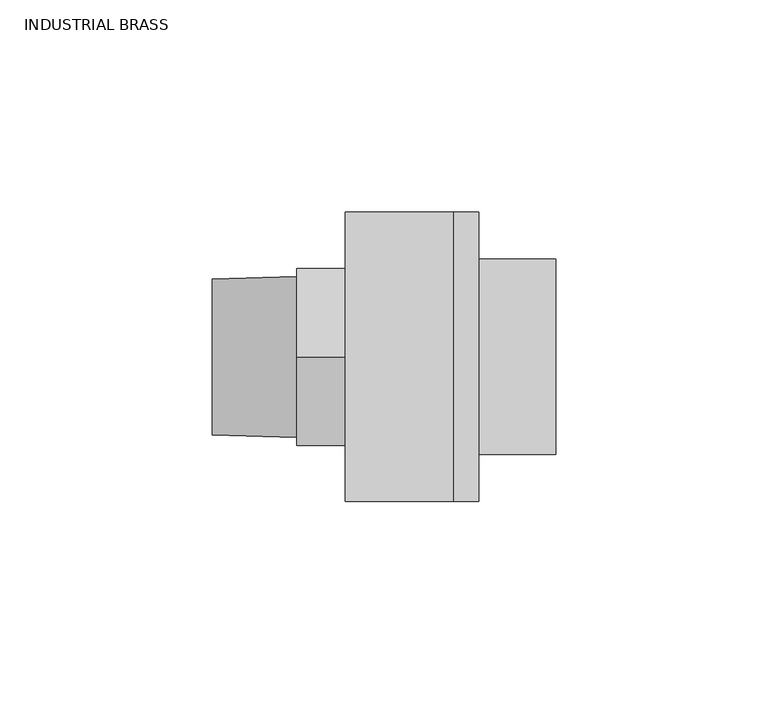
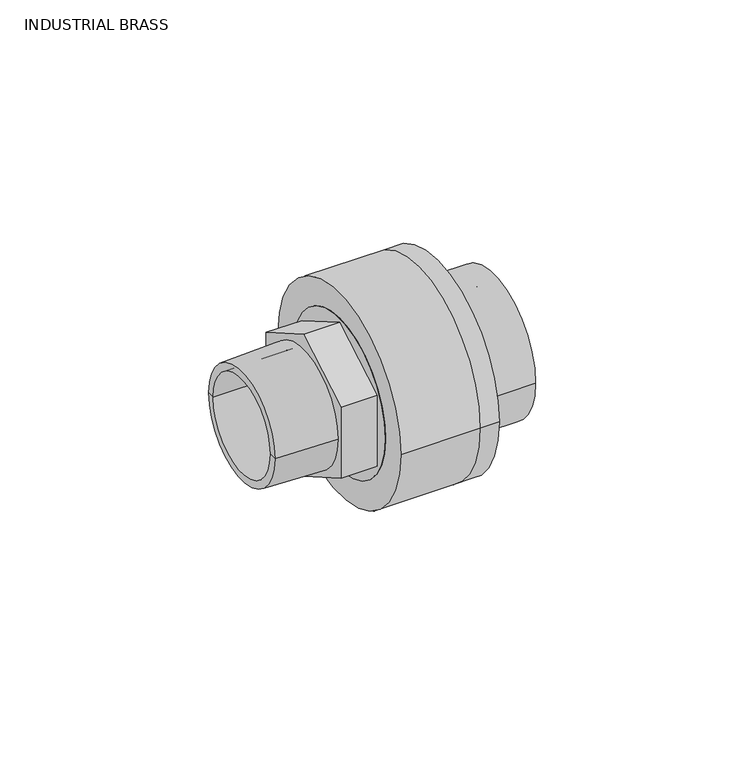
"""IFC4 building model written with IfcOpenShell, lengths in millimetres: valve geometry, Aquatherm - Transition Piece - M HEX : INDUSTRIAL BRASS."""

from ifc_helpers import new_model, si_unit, frame, origin, place, context, project, spatial, polyline, circle_curve, source, transform, mapped, element, save
from ifc_brep_helpers import plane_surface, cylinder_surface, revolved_surface, advanced_brep


def industrial_brass_cb4e01c0(model_context):
    return source(origin(), model_context, "Body", "AdvancedBrep", [
        advanced_brep(
        [(25.4, -25.4, 0.0), (25.4, 25.4, 0.0), (25.4, -15.875, 0.0), (25.4, 15.875, 0.0), (0.0, -25.4, 0.0), (0.0, 25.4, 0.0), (0.0, 0.0, -24.0501028), (0.0, 20.828, -12.0250514), (0.0, 20.828, 12.0250514), (0.0, 0.0, 24.0501028), (0.0, -20.828, 12.0250514), (0.0, -20.828, -12.0250514), (0.0, -15.875, 0.0), (0.0, 15.875, 0.0), (-11.43, 0.0, -24.0501028), (-11.43, -20.828, -12.0250514), (-11.43, -20.828, 12.0250514), (-11.43, 0.0, 24.0501028), (-11.43, 20.828, 12.0250514), (-11.43, 20.828, -12.0250514), (-11.43, -18.9526355, 0.0), (-11.43, 18.9526355, 0.0), (-11.43, -15.875, 0.0), (-11.43, 15.875, 0.0), (-31.242, 15.875, 0.0), (-31.242, -15.875, 0.0), (-31.242, 18.3536145, 0.0), (-31.242, -18.3536145, 0.0)],
        [
            (0, 1, circle_curve(frame((25.4, 0.0, 0.0), z_axis=(1.0, 0.0, 0.0), x_axis=(0.0, 1.0, 0.0)), 25.4)),
            (1, 0, circle_curve(frame((25.4, 0.0, 0.0), z_axis=(1.0, 0.0, 0.0), x_axis=(0.0, 1.0, 0.0)), 25.4)),
            (2, 3, circle_curve(frame((25.4, 0.0, 0.0), z_axis=(-1.0, 0.0, 0.0), x_axis=(0.0, 1.0, 0.0)), 15.875)),
            (3, 2, circle_curve(frame((25.4, 0.0, 0.0), z_axis=(-1.0, 0.0, 0.0), x_axis=(0.0, 1.0, 0.0)), 15.875)),
            (4, 5, circle_curve(frame((0.0, 0.0, 0.0), z_axis=(-1.0, 0.0, 0.0), x_axis=(0.0, 1.0, 0.0)), 25.4)),
            (5, 4, circle_curve(frame((0.0, 0.0, 0.0), z_axis=(-1.0, 0.0, 0.0), x_axis=(0.0, 1.0, 0.0)), 25.4)),
            (6, 7),
            (7, 8),
            (8, 9),
            (9, 10),
            (10, 11),
            (11, 6),
            (0, 4),
            (5, 1),
            (2, 12),
            (12, 13, circle_curve(frame((0.0, 0.0, 0.0), z_axis=(-1.0, 0.0, 0.0), x_axis=(0.0, 1.0, 0.0)), 15.875)),
            (13, 3),
            (13, 12, circle_curve(frame((0.0, 0.0, 0.0), z_axis=(-1.0, 0.0, 0.0), x_axis=(0.0, 1.0, 0.0)), 15.875)),
            (14, 15),
            (15, 16),
            (16, 17),
            (17, 18),
            (18, 19),
            (19, 14),
            (20, 21, circle_curve(frame((-11.43, 0.0, 0.0), z_axis=(1.0, 0.0, 0.0), x_axis=(0.0, 1.0, 0.0)), 18.9526355)),
            (21, 20, circle_curve(frame((-11.43, 0.0, 0.0), z_axis=(1.0, 0.0, 0.0), x_axis=(0.0, 1.0, 0.0)), 18.9526355)),
            (19, 7),
            (6, 14),
            (18, 8),
            (17, 9),
            (16, 10),
            (15, 11),
            (12, 22),
            (22, 23, circle_curve(frame((-11.43, 0.0, 0.0), z_axis=(-1.0, 0.0, 0.0), x_axis=(0.0, 1.0, 0.0)), 15.875)),
            (23, 13),
            (23, 22, circle_curve(frame((-11.43, 0.0, 0.0), z_axis=(-1.0, 0.0, 0.0), x_axis=(0.0, 1.0, 0.0)), 15.875)),
            (23, 24),
            (24, 25, circle_curve(frame((-31.242, 0.0, 0.0), z_axis=(-1.0, 0.0, 0.0), x_axis=(0.0, 1.0, 0.0)), 15.875)),
            (25, 22),
            (25, 24, circle_curve(frame((-31.242, 0.0, 0.0), z_axis=(-1.0, 0.0, 0.0), x_axis=(0.0, 1.0, 0.0)), 15.875)),
            (24, 26),
            (26, 27, circle_curve(frame((-31.242, 0.0, 0.0), z_axis=(-1.0, 0.0, 0.0), x_axis=(0.0, 1.0, 0.0)), 18.3536145)),
            (27, 25),
            (27, 26, circle_curve(frame((-31.242, 0.0, 0.0), z_axis=(-1.0, 0.0, 0.0), x_axis=(0.0, 1.0, 0.0)), 18.3536145)),
            (26, 21),
            (20, 27),
        ],
        [
            plane_surface(frame((25.4, 25.4, 0.0), z_axis=(1.0, 0.0, 0.0), x_axis=(0.0, 0.0, 1.0))),
            plane_surface(frame((0.0, 25.4, 0.0), z_axis=(-1.0, 0.0, 0.0), x_axis=(0.0, 0.0, -1.0))),
            cylinder_surface(frame((0.0, 0.0, 0.0), z_axis=(1.0, 0.0, 0.0), x_axis=(0.0, 1.0, 0.0)), 25.4),
            revolved_surface(polyline([(0.0, 15.875, 0.0), (25.4, 15.875, 0.0)]), (17.447219, 0.0, 0.0), (-1.0, 0.0, 0.0)),
            plane_surface(frame((-11.43, 0.0, -24.0501028), z_axis=(-1.0, 0.0, 0.0), x_axis=(0.0, -0.8660254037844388, -0.49999999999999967))),
            plane_surface(frame((0.0, 0.0, -24.0501028), z_axis=(0.0, 0.49999999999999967, -0.8660254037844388), x_axis=(-1.0, 0.0, 0.0))),
            plane_surface(frame((0.0, 20.828, -12.0250514), z_axis=(0.0, 1.0, 0.0), x_axis=(-1.0, 0.0, 0.0))),
            plane_surface(frame((0.0, 20.828, 12.0250514), z_axis=(0.0, 0.49999999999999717, 0.8660254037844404), x_axis=(-1.0, 0.0, 0.0))),
            plane_surface(frame((0.0, 0.0, 24.0501028), z_axis=(0.0, -0.5000000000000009, 0.8660254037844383), x_axis=(-1.0, 0.0, 0.0))),
            plane_surface(frame((0.0, -20.828, 12.0250514), z_axis=(0.0, -1.0, 0.0), x_axis=(-1.0, 0.0, 0.0))),
            plane_surface(frame((0.0, -20.828, -12.0250514), z_axis=(0.0, -0.49999999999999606, -0.8660254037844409), x_axis=(-1.0, 0.0, 0.0))),
            revolved_surface(polyline([(-11.43, 15.875, 0.0), (0.0, 15.875, 0.0)]), (0.0, 0.0, 0.0), (-1.0, 0.0, 0.0)),
            revolved_surface(polyline([(-31.242000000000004, 15.875, 0.0), (-11.43, 15.875, 0.0)]), (-66.1150688, 0.0, 0.0), (-1.0, 0.0, 0.0)),
            plane_surface(frame((-31.242, 0.0, 0.0), z_axis=(-1.0, 0.0, 0.0), x_axis=(0.0, 1.0, 0.0))),
            revolved_surface(polyline([(-11.43, 18.9526355, 0.0), (-31.242, 18.3536145, 0.0)]), (-66.1150688, 0.0, 0.0), (-1.0, 0.0, 0.0)),
        ],
        [
            (0, [[1, 2], [3, 4]]),
            (1, [[5, 6], [7, 8, 9, 10, 11, 12]]),
            (2, [[-1, 13, -6, 14]]),
            (2, [[-2, -14, -5, -13]]),
            (3, [[-3, 15, 16, 17]]),
            (3, [[-4, -17, 18, -15]]),
            (4, [[19, 20, 21, 22, 23, 24], [25, 26]]),
            (5, [[-24, 27, -7, 28]]),
            (6, [[-23, 29, -8, -27]]),
            (7, [[-22, 30, -9, -29]]),
            (8, [[-21, 31, -10, -30]]),
            (9, [[-20, 32, -11, -31]]),
            (10, [[-19, -28, -12, -32]]),
            (11, [[33, 34, 35, -16]]),
            (11, [[-33, -18, -35, 36]]),
            (12, [[37, 38, 39, -36]]),
            (12, [[-37, -34, -39, 40]]),
            (13, [[-38, 41, 42, 43]]),
            (13, [[-40, -43, 44, -41]]),
            (14, [[-42, 45, -25, 46]]),
            (14, [[-44, -46, -26, -45]]),
        ],
    ),
        advanced_brep(
        [(0.0, -34.036, 0.0), (0.0, 34.036, 0.0), (0.0, -25.4, 0.0), (0.0, 25.4, 0.0), (25.4, 34.036, 0.0), (25.4, -34.036, 0.0), (25.4, 25.4, 0.0), (25.4, -25.4, 0.0), (31.496, -34.036, 0.0), (31.496, 34.036, 0.0), (31.496, 22.987, 0.0), (31.496, -22.987, 0.0), (31.496, 16.002, 0.0), (31.496, -16.002, 0.0), (31.496, -12.7, 0.0), (31.496, 12.7, 0.0), (25.4, -12.7, 0.0), (25.4, 12.7, 0.0), (49.53, -22.987, 0.0), (49.53, 22.987, 0.0), (49.53, -16.002, 0.0), (49.53, 16.002, 0.0)],
        [
            (0, 1, circle_curve(frame((0.0, 0.0, 0.0), z_axis=(-1.0, 0.0, 0.0), x_axis=(0.0, 1.0, 0.0)), 34.036)),
            (1, 0, circle_curve(frame((0.0, 0.0, 0.0), z_axis=(-1.0, 0.0, 0.0), x_axis=(0.0, 1.0, 0.0)), 34.036)),
            (2, 3, circle_curve(frame((0.0, 0.0, 0.0), z_axis=(1.0, 0.0, 0.0), x_axis=(0.0, 1.0, 0.0)), 25.4)),
            (3, 2, circle_curve(frame((0.0, 0.0, 0.0), z_axis=(1.0, 0.0, 0.0), x_axis=(0.0, 1.0, 0.0)), 25.4)),
            (1, 4),
            (4, 5, circle_curve(frame((25.4, 0.0, 0.0), z_axis=(-1.0, 0.0, 0.0), x_axis=(0.0, 1.0, 0.0)), 34.036)),
            (5, 0),
            (5, 4, circle_curve(frame((25.4, 0.0, 0.0), z_axis=(-1.0, 0.0, 0.0), x_axis=(0.0, 1.0, 0.0)), 34.036)),
            (3, 6),
            (6, 7, circle_curve(frame((25.4, 0.0, 0.0), z_axis=(1.0, 0.0, 0.0), x_axis=(0.0, 1.0, 0.0)), 25.4)),
            (7, 2),
            (7, 6, circle_curve(frame((25.4, 0.0, 0.0), z_axis=(1.0, 0.0, 0.0), x_axis=(0.0, 1.0, 0.0)), 25.4)),
            (8, 9, circle_curve(frame((31.496, 0.0, 0.0), z_axis=(1.0, 0.0, 0.0), x_axis=(0.0, 1.0, 0.0)), 34.036)),
            (9, 8, circle_curve(frame((31.496, 0.0, 0.0), z_axis=(1.0, 0.0, 0.0), x_axis=(0.0, 1.0, 0.0)), 34.036)),
            (10, 11, circle_curve(frame((31.496, 0.0, 0.0), z_axis=(-1.0, 0.0, 0.0), x_axis=(0.0, 1.0, 0.0)), 22.987)),
            (11, 10, circle_curve(frame((31.496, 0.0, 0.0), z_axis=(-1.0, 0.0, 0.0), x_axis=(0.0, 1.0, 0.0)), 22.987)),
            (12, 13, circle_curve(frame((31.496, 0.0, 0.0), z_axis=(1.0, 0.0, 0.0), x_axis=(0.0, 1.0, 0.0)), 16.002)),
            (13, 12, circle_curve(frame((31.496, 0.0, 0.0), z_axis=(1.0, 0.0, 0.0), x_axis=(0.0, 1.0, 0.0)), 16.002)),
            (14, 15, circle_curve(frame((31.496, 0.0, 0.0), z_axis=(-1.0, 0.0, 0.0), x_axis=(0.0, 1.0, 0.0)), 12.7)),
            (15, 14, circle_curve(frame((31.496, 0.0, 0.0), z_axis=(-1.0, 0.0, 0.0), x_axis=(0.0, 1.0, 0.0)), 12.7)),
            (16, 17, circle_curve(frame((25.4, 0.0, 0.0), z_axis=(1.0, 0.0, 0.0), x_axis=(0.0, 1.0, 0.0)), 12.7)),
            (17, 16, circle_curve(frame((25.4, 0.0, 0.0), z_axis=(1.0, 0.0, 0.0), x_axis=(0.0, 1.0, 0.0)), 12.7)),
            (8, 5),
            (4, 9),
            (14, 16),
            (17, 15),
            (18, 19, circle_curve(frame((49.53, 0.0, 0.0), z_axis=(1.0, 0.0, 0.0), x_axis=(0.0, 1.0, 0.0)), 22.987)),
            (19, 18, circle_curve(frame((49.53, 0.0, 0.0), z_axis=(1.0, 0.0, 0.0), x_axis=(0.0, 1.0, 0.0)), 22.987)),
            (20, 21, circle_curve(frame((49.53, 0.0, 0.0), z_axis=(-1.0, 0.0, 0.0), x_axis=(0.0, 1.0, 0.0)), 16.002)),
            (21, 20, circle_curve(frame((49.53, 0.0, 0.0), z_axis=(-1.0, 0.0, 0.0), x_axis=(0.0, 1.0, 0.0)), 16.002)),
            (18, 11),
            (10, 19),
            (20, 13),
            (12, 21),
        ],
        [
            plane_surface(frame((0.0, 34.036, 0.0), z_axis=(-1.0, 0.0, 0.0), x_axis=(0.0, 0.0, -1.0))),
            cylinder_surface(frame((0.0, 0.0, 0.0), z_axis=(1.0, 0.0, 0.0), x_axis=(0.0, 1.0, 0.0)), 34.036),
            revolved_surface(polyline([(0.0, 25.4, 0.0), (25.4, 25.4, 0.0)]), (-38.1, 0.0, 0.0), (-1.0, 0.0, 0.0)),
            plane_surface(frame((31.496, 34.036, 0.0), z_axis=(1.0, 0.0, 0.0), x_axis=(0.0, 0.0, 1.0))),
            plane_surface(frame((25.4, 34.036, 0.0), z_axis=(-1.0, 0.0, 0.0), x_axis=(0.0, 0.0, -1.0))),
            cylinder_surface(frame((25.4, 0.0, 0.0), z_axis=(1.0, 0.0, 0.0), x_axis=(0.0, 1.0, 0.0)), 34.036),
            revolved_surface(polyline([(25.400000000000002, 12.7, 0.0), (31.496, 12.7, 0.0)]), (-19.05, 0.0, 0.0), (-1.0, 0.0, 0.0)),
            plane_surface(frame((49.53, 22.987, 0.0), z_axis=(1.0, 0.0, 0.0), x_axis=(0.0, 0.0, 1.0))),
            cylinder_surface(frame((31.496, 0.0, 0.0), z_axis=(1.0, 0.0, 0.0), x_axis=(0.0, 1.0, 0.0)), 22.987),
            revolved_surface(polyline([(31.496, 16.002, 0.0), (49.53, 16.002, 0.0)]), (0.0, 0.0, 0.0), (-1.0, 0.0, 0.0)),
        ],
        [
            (0, [[1, 2], [3, 4]]),
            (1, [[-2, 5, 6, 7]]),
            (1, [[-1, -7, 8, -5]]),
            (2, [[-4, 9, 10, 11]]),
            (2, [[-3, -11, 12, -9]]),
            (3, [[13, 14], [15, 16]]),
            (3, [[17, 18], [19, 20]]),
            (4, [[-10, -12], [21, 22]]),
            (5, [[-13, 23, -6, 24]]),
            (5, [[-14, -24, -8, -23]]),
            (6, [[-19, 25, -22, 26]]),
            (6, [[-20, -26, -21, -25]]),
            (7, [[27, 28], [29, 30]]),
            (8, [[-27, 31, -15, 32]]),
            (8, [[-28, -32, -16, -31]]),
            (9, [[-29, 33, -17, 34]]),
            (9, [[-30, -34, -18, -33]]),
        ],
    ),
    ])


if __name__ == "__main__":
    model = new_model("IFC4")
    model_context = context("Model", 3, world=origin())
    ifc_project = project(units=[si_unit("LENGTHUNIT", "METRE", prefix="MILLI")], contexts=[model_context])
    site = spatial("IfcSite", under=ifc_project)
    building = spatial("IfcBuilding", under=site)
    placement = place(None, origin())
    industrial_brass_shape = industrial_brass_cb4e01c0(model_context)
    element("IfcValve", 1, ObjectType="Aquatherm - Transition Piece - M HEX : INDUSTRIAL BRASS", at=placement, inside=building, context=model_context, shape_type="MappedRepresentation", body=[
        mapped(industrial_brass_shape, transform((0.0, 0.0, 0.0), x_axis=(1.0, 0.0, 0.0), y_axis=(0.0, 1.0, 0.0), z_axis=(0.0, 0.0, 1.0))),
    ])
    save(model, "model.ifc")
